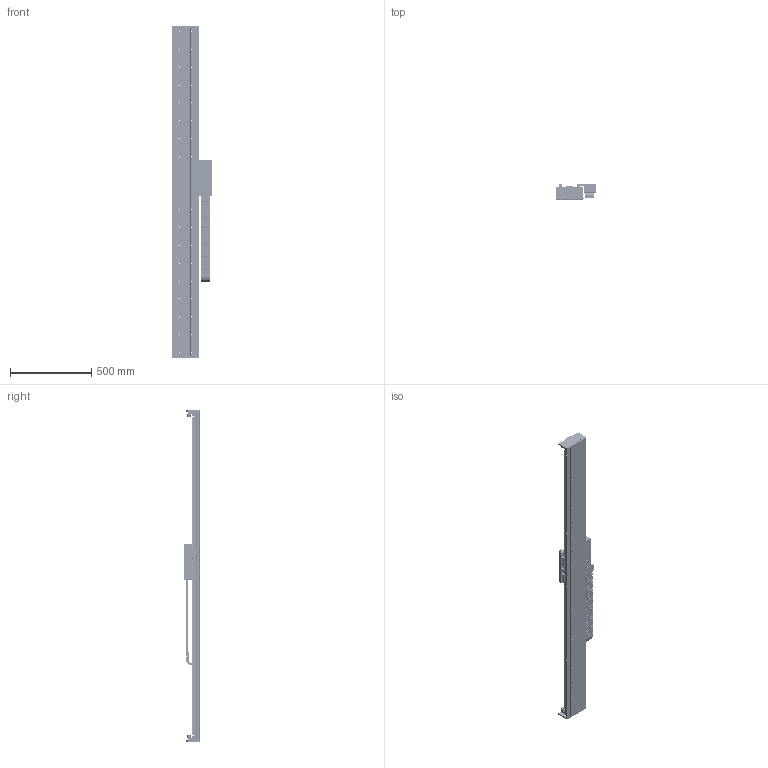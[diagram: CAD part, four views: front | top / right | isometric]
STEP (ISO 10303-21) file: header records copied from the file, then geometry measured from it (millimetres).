
FILE_DESCRIPTION (( 'STEP AP203' ), '1' );
FILE_NAME ('STF20120P-xC1B-Axx.STEP', '2007-06-22T21:40:14', ( 'Yaskawa' ), ( 'Yaskawa' ), 'SwSTEP 2.0', 'SolidWorks 2007', '' );
FILE_SCHEMA (( 'CONFIG_CONTROL_DESIGN' ));
Products named in the file (59): 07.50.028.0_102; Bumper-Medium; 07.50.028.0_116; 07.50.028.0_109; 07.50.028.0_110; STF2035-006 Endplate; SGLFM-20756AC; STF20BM Base_STF20BM-015; STF20120P-xC1B-Axx; End Stop with Bumper; Mult-SR15+580LY_015; Complete Carriage; STF20-120 SSR15W Carriage-R2; STF2035-001B F20-120 Carriage; STF2035-002A-R2 F2035 Carriage Horn; STF2035-005-R2 Cable Router; STF2035-003 Renishaw Encoder Mount; STCM-003 Cable Assembly Bottom; RGH22B; STF2035-004 Flag; SSR15W Block; SGLFW-20A120AP; STCM-R1; STCM-001-R2 Cable Bracket; STCM-002-R2 Cable Assembly Front; STCM-004 Cable Assembly Side; STCM-005-R1 Cable Assembly Cover; STCM-006-R1 Upper E-chain Bracket; Serial Converter; STCM-007 Lower E-Chain Bracket; STF20120P; 07.50.028.0_96; 07.50.028.0_97; 07.50.028.0_98; 07.50.028.0_99; 07.50.028.0_117; 07.50.028.0_100; 07.50.028.0_101; 07.50.028.0_103; 07.50.028.0_104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
Assembly tree (96 placements, depth 4):
  STF20120P-xC1B-Axx
    STF20120P
      07.50.028.0_103
      07.50.028.0_111  x16
      07.50.028.0_112
      07.50.028.0_107
      07.50.028.0_115
      07.50.028.0_121
      07.50.028.0_105  x14
      07.50.028.0_123
      07.50.028.0_106
      07.50.028.0_117
      07.50.028.0_113
      07.50.028.0_108
      07.50.028.0_102
      07.50.028.0_109
      07.50.028.0_122
      07.50.028.0_119
      07.50.028.0_110
      07.50.028.0_104
      07.50.028.0_120
      07.50.028.0_100
      07.50.028.0_99
      07.50.028.0_97
      07.50.028.0_98
      07.50.028.0_96
      07.50.028.0_114
      07.50.028.0_101
      07.50.028.0_118
      07.50.028.0_116
    Complete Carriage
      STF20-120 SSR15W Carriage-R2
        STF2035-002A-R2 F2035 Carriage Horn  x2
        SSR15W Block  x4
        STF2035-004 Flag
        STF2035-005-R2 Cable Router
        SGLFW-20A120AP
        RGH22B
        STF2035-003 Renishaw Encoder Mount
        STF2035-001B F20-120 Carriage
      STCM-R1
        STCM-005-R1 Cable Assembly Cover
        STCM-004 Cable Assembly Side
        STCM-006-R1 Upper E-chain Bracket
        STCM-001-R2 Cable Bracket
        STCM-002-R2 Cable Assembly Front
        Serial Converter
        STCM-003 Cable Assembly Bottom
    STF2035-006 Endplate  x2
    STCM-007 Lower E-Chain Bracket
    STF20BM Base_STF20BM-015
      SGLFM-20324AC  x2
      End Stop with Bumper  x4
        Bumper-Medium
        STF2035-007 End Stop
      SGLFM-20756AC
      STF20BM Base_STF20BM-015
      Mult-SR15+580LY_015  x2
      SGLFM-20540AC
Bounding box: 251.03 x 94.7 x 2049.05 mm (x, y, z)
Volume: 9172374 mm3; surface area: 2536426.4 mm2
Topology: 147 solids, 147 shells, 7865 faces, 20462 edges, 13081 vertices
Faces by surface type: plane 4006, cylinder 3241, cone 570, bspline 44, torus 4
Entity records: 154232 total; most frequent: DIRECTION 26183, CARTESIAN_POINT 25540, ORIENTED_EDGE 24198, EDGE_CURVE 12099, AXIS2_PLACEMENT_3D 9182, VERTEX_POINT 7926, VECTOR 7819, LINE 7819
